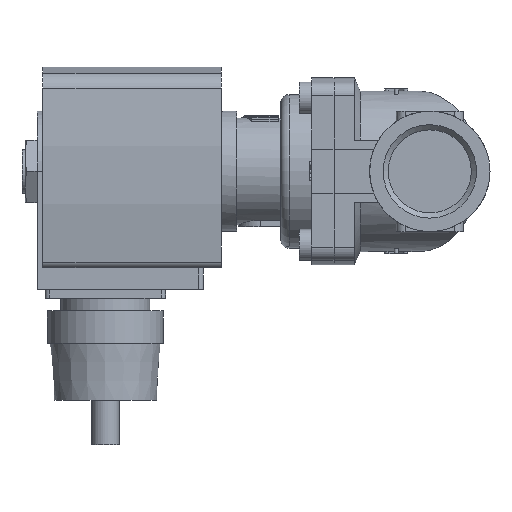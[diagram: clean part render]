
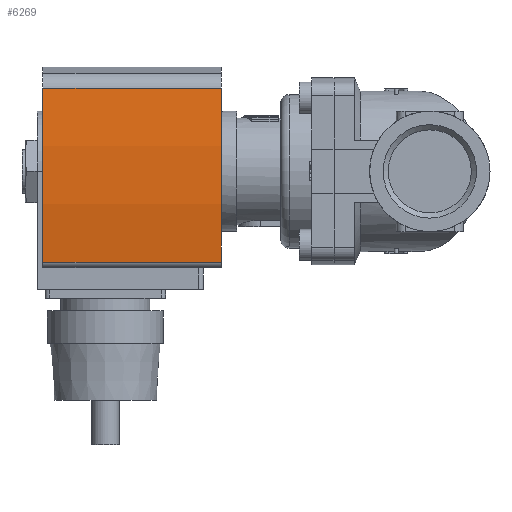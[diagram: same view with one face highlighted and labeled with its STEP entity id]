
A CAD part, left-side view. The second image highlights one B-rep face of the part: STEP entity #6269.
In plain terms, the highlighted cylindrical face has radius 130 mm (diameter 260 mm), a partial arc.
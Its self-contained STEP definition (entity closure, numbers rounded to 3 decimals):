
#238=CYLINDRICAL_SURFACE('',#6821,130.);
#650=LINE('',#10099,#1082);
#651=LINE('',#10103,#1083);
#1082=VECTOR('',#8279,1000.);
#1083=VECTOR('',#8284,1000.);
#2448=ORIENTED_EDGE('',*,*,#3317,.T.);
#2449=ORIENTED_EDGE('',*,*,#3318,.F.);
#2450=ORIENTED_EDGE('',*,*,#3306,.F.);
#2451=ORIENTED_EDGE('',*,*,#3316,.T.);
#3306=EDGE_CURVE('',#3846,#3847,#4083,.T.);
#3316=EDGE_CURVE('',#3846,#3853,#650,.T.);
#3317=EDGE_CURVE('',#3853,#3854,#4091,.T.);
#3318=EDGE_CURVE('',#3847,#3854,#651,.T.);
#3846=VERTEX_POINT('',#10079);
#3847=VERTEX_POINT('',#10081);
#3853=VERTEX_POINT('',#10098);
#3854=VERTEX_POINT('',#10102);
#4083=CIRCLE('',#6811,130.);
#4091=CIRCLE('',#6822,130.);
#4421=EDGE_LOOP('',(#2448,#2449,#2450,#2451));
#4777=FACE_BOUND('',#4421,.T.);
#6269=ADVANCED_FACE('',(#4777),#238,.T.);
#6811=AXIS2_PLACEMENT_3D('',#10080,#8257,#8258);
#6821=AXIS2_PLACEMENT_3D('',#10100,#8280,#8281);
#6822=AXIS2_PLACEMENT_3D('',#10101,#8282,#8283);
#8257=DIRECTION('',(0.,1.,0.));
#8258=DIRECTION('',(1.,0.,0.));
#8279=DIRECTION('',(0.,-1.,0.));
#8280=DIRECTION('',(0.,-1.,0.));
#8281=DIRECTION('',(0.,0.,-1.));
#8282=DIRECTION('',(0.,1.,0.));
#8283=DIRECTION('',(1.,0.,0.));
#8284=DIRECTION('',(0.,-1.,0.));
#10079=CARTESIAN_POINT('',(-20.382,14.,18.392));
#10080=CARTESIAN_POINT('',(0.,14.,-110.));
#10081=CARTESIAN_POINT('',(18.639,14.,18.657));
#10098=CARTESIAN_POINT('',(-20.382,-26.,18.392));
#10099=CARTESIAN_POINT('',(-20.382,14.,18.392));
#10100=CARTESIAN_POINT('',(0.,14.,-110.));
#10101=CARTESIAN_POINT('',(0.,-26.,-110.));
#10102=CARTESIAN_POINT('',(18.639,-26.,18.657));
#10103=CARTESIAN_POINT('',(18.639,14.,18.657));
